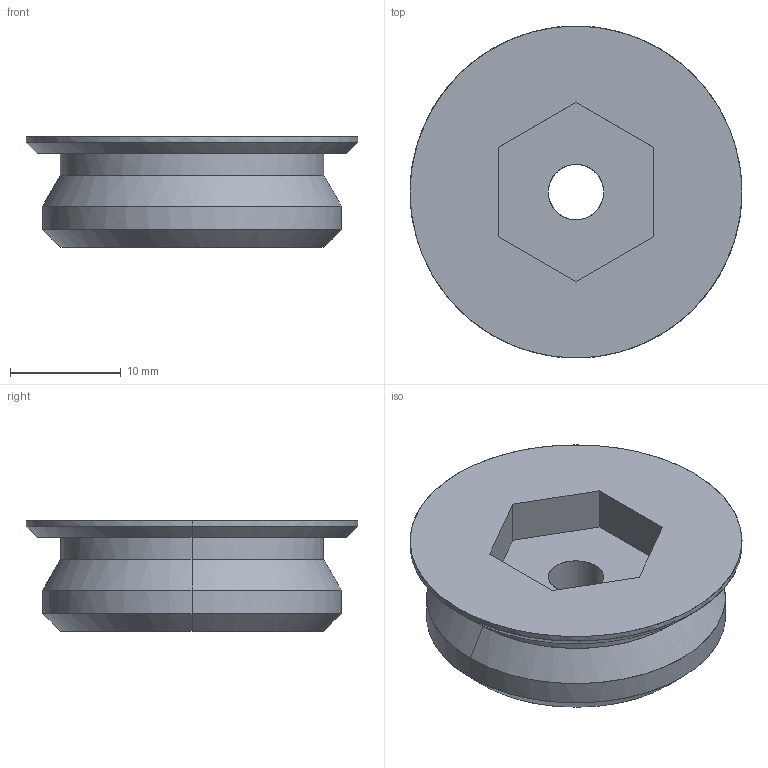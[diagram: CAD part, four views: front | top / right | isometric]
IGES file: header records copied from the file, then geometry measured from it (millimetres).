
Global section: file name: E:\UnigraphicsGraphicData\MISUMI_PRESS-PARTS\IGES\3d_mswzsh27-10_00506_r00.igs; native system: NX V5.0; preprocessor: UGS NX IGES V5.0; author: MISUMI; date: 20110105.161532; units: millimetre
Bounding box: 30 x 30 x 10 mm (x, y, z)
Surface area: 2513.7 mm2 (no closed solid volume)
Topology: 0 solids, 0 shells, 24 faces, 156 edges, 156 vertices
Faces by surface type: bspline 24
